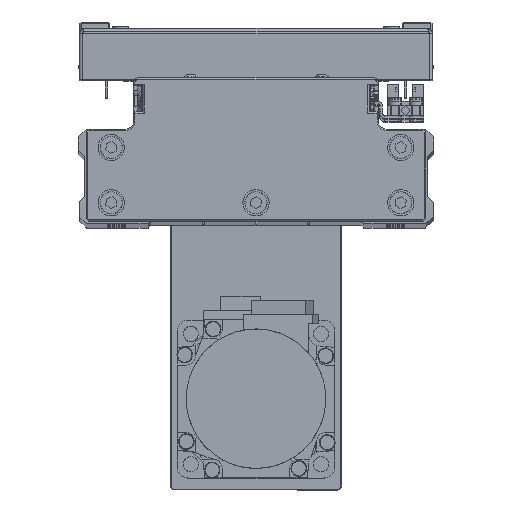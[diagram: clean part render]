
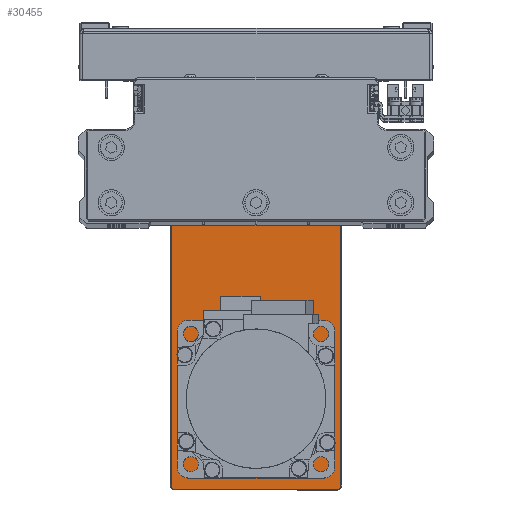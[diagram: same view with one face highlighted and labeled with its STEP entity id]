
A CAD part, top view. The second image highlights one B-rep face of the part: STEP entity #30455.
In plain terms, the highlighted planar face has unit normal (0, 0, 1) as drawn and (0, 1, 0) by its records, which use the part's own axes.
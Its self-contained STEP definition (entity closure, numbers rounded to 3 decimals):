
#355 = CIRCLE ( 'NONE', #25568, 15. ) ;
#402 = DIRECTION ( 'NONE',  ( 1., 0., 0. ) ) ;
#592 = VERTEX_POINT ( 'NONE', #35259 ) ;
#784 = DIRECTION ( 'NONE',  ( 0., 0., -1. ) ) ;
#986 = ORIENTED_EDGE ( 'NONE', *, *, #22036, .T. ) ;
#1053 = LINE ( 'NONE', #14806, #30075 ) ;
#1267 = DIRECTION ( 'NONE',  ( 0., 1., 0. ) ) ;
#1617 = VERTEX_POINT ( 'NONE', #32937 ) ;
#1671 = DIRECTION ( 'NONE',  ( 0., 0., 1. ) ) ;
#1798 = AXIS2_PLACEMENT_3D ( 'NONE', #13660, #27420, #41147 ) ;
#1874 = EDGE_CURVE ( 'NONE', #13677, #18843, #3827, .T. ) ;
#1887 = CARTESIAN_POINT ( 'NONE',  ( 83.5, 6., 32.2 ) ) ;
#2457 = CARTESIAN_POINT ( 'NONE',  ( 52.5, 6., -10.3 ) ) ;
#2594 = CARTESIAN_POINT ( 'NONE',  ( 84.7, 6., 31. ) ) ;
#3287 = FACE_BOUND ( 'NONE', #8782, .T. ) ;
#3499 = CIRCLE ( 'NONE', #28734, 1.525 ) ;
#3726 = CIRCLE ( 'NONE', #9494, 1.525 ) ;
#3827 = LINE ( 'NONE', #17580, #33459 ) ;
#4838 = DIRECTION ( 'NONE',  ( 0., 0., -1. ) ) ;
#4857 = AXIS2_PLACEMENT_3D ( 'NONE', #17927, #31668, #784 ) ;
#5238 = EDGE_CURVE ( 'NONE', #18843, #11899, #24907, .T. ) ;
#5440 = DIRECTION ( 'NONE',  ( 0., 1., 0. ) ) ;
#5470 = AXIS2_PLACEMENT_3D ( 'NONE', #32142, #1267, #15024 ) ;
#5748 = CARTESIAN_POINT ( 'NONE',  ( 52.5, 6., 0. ) ) ;
#6345 = CARTESIAN_POINT ( 'NONE',  ( 75.992, 6., -10.076 ) ) ;
#6451 = CARTESIAN_POINT ( 'NONE',  ( -84.7, 6., 31. ) ) ;
#6606 = EDGE_CURVE ( 'NONE', #592, #35906, #9870, .T. ) ;
#6901 = EDGE_CURVE ( 'NONE', #1617, #23461, #27908, .T. ) ;
#7030 = CARTESIAN_POINT ( 'NONE',  ( 61.051, 6., 23.492 ) ) ;
#7293 = VERTEX_POINT ( 'NONE', #28233 ) ;
#7894 = DIRECTION ( 'NONE',  ( 0., 1., 0. ) ) ;
#8072 = ORIENTED_EDGE ( 'NONE', *, *, #12087, .F. ) ;
#8140 = ORIENTED_EDGE ( 'NONE', *, *, #26194, .T. ) ;
#8307 = EDGE_CURVE ( 'NONE', #11649, #13677, #33800, .T. ) ;
#8394 = ORIENTED_EDGE ( 'NONE', *, *, #37243, .T. ) ;
#8482 = AXIS2_PLACEMENT_3D ( 'NONE', #18804, #32553, #1671 ) ;
#8782 = EDGE_LOOP ( 'NONE', ( #27170, #35883 ) ) ;
#8946 = CIRCLE ( 'NONE', #34114, 15. ) ;
#9316 = DIRECTION ( 'NONE',  ( 0., 1., 0. ) ) ;
#9474 = AXIS2_PLACEMENT_3D ( 'NONE', #36294, #5440, #19192 ) ;
#9483 = CARTESIAN_POINT ( 'NONE',  ( -50.5, 6., 0. ) ) ;
#9494 = AXIS2_PLACEMENT_3D ( 'NONE', #7030, #20775, #34513 ) ;
#9568 = EDGE_LOOP ( 'NONE', ( #8072, #21365 ) ) ;
#9739 = EDGE_LOOP ( 'NONE', ( #11912, #12236 ) ) ;
#9870 = CIRCLE ( 'NONE', #35059, 10.3 ) ;
#10160 = DIRECTION ( 'NONE',  ( 0., 0., -1. ) ) ;
#11649 = VERTEX_POINT ( 'NONE', #23379 ) ;
#11899 = VERTEX_POINT ( 'NONE', #39781 ) ;
#11912 = ORIENTED_EDGE ( 'NONE', *, *, #31106, .F. ) ;
#12087 = EDGE_CURVE ( 'NONE', #23461, #1617, #3726, .T. ) ;
#12236 = ORIENTED_EDGE ( 'NONE', *, *, #19580, .F. ) ;
#12341 = ORIENTED_EDGE ( 'NONE', *, *, #25073, .T. ) ;
#12548 = ORIENTED_EDGE ( 'NONE', *, *, #34148, .T. ) ;
#12665 = LINE ( 'NONE', #26429, #30135 ) ;
#13660 = CARTESIAN_POINT ( 'NONE',  ( 0., 6., 0. ) ) ;
#13677 = VERTEX_POINT ( 'NONE', #18799 ) ;
#14395 = AXIS2_PLACEMENT_3D ( 'NONE', #40179, #9316, #23064 ) ;
#14671 = CARTESIAN_POINT ( 'NONE',  ( 61.051, 6., 25.017 ) ) ;
#14806 = CARTESIAN_POINT ( 'NONE',  ( 84.7, 6., 0. ) ) ;
#15024 = DIRECTION ( 'NONE',  ( 0., 0., -1. ) ) ;
#15192 = CARTESIAN_POINT ( 'NONE',  ( -50.5, 6., 0. ) ) ;
#16295 = VERTEX_POINT ( 'NONE', #2594 ) ;
#16304 = AXIS2_PLACEMENT_3D ( 'NONE', #27299, #41011, #10160 ) ;
#16921 = VERTEX_POINT ( 'NONE', #6345 ) ;
#17053 = FACE_OUTER_BOUND ( 'NONE', #39662, .T. ) ;
#17136 = CIRCLE ( 'NONE', #42317, 10.3 ) ;
#17537 = LINE ( 'NONE', #31283, #26555 ) ;
#17580 = CARTESIAN_POINT ( 'NONE',  ( -84.7, 6., 0. ) ) ;
#17927 = CARTESIAN_POINT ( 'NONE',  ( 83.5, 6., 31. ) ) ;
#18799 = CARTESIAN_POINT ( 'NONE',  ( -84.7, 6., -31. ) ) ;
#18804 = CARTESIAN_POINT ( 'NONE',  ( 61.051, 6., 23.492 ) ) ;
#18843 = VERTEX_POINT ( 'NONE', #6451 ) ;
#19192 = DIRECTION ( 'NONE',  ( 0., 0., 1. ) ) ;
#19201 = EDGE_LOOP ( 'NONE', ( #28715, #21841 ) ) ;
#19498 = DIRECTION ( 'NONE',  ( 0., -1., 0. ) ) ;
#19580 = EDGE_CURVE ( 'NONE', #21593, #7293, #355, .T. ) ;
#20428 = FACE_BOUND ( 'NONE', #9568, .T. ) ;
#20775 = DIRECTION ( 'NONE',  ( 0., 1., 0. ) ) ;
#21365 = ORIENTED_EDGE ( 'NONE', *, *, #6901, .F. ) ;
#21460 = EDGE_CURVE ( 'NONE', #35906, #592, #17136, .T. ) ;
#21593 = VERTEX_POINT ( 'NONE', #29855 ) ;
#21637 = DIRECTION ( 'NONE',  ( 0., 0., 1. ) ) ;
#21841 = ORIENTED_EDGE ( 'NONE', *, *, #22328, .F. ) ;
#21927 = ORIENTED_EDGE ( 'NONE', *, *, #1874, .T. ) ;
#21967 = CARTESIAN_POINT ( 'NONE',  ( 52.5, 6., 0. ) ) ;
#22036 = EDGE_CURVE ( 'NONE', #42020, #11649, #12665, .T. ) ;
#22328 = EDGE_CURVE ( 'NONE', #16921, #29791, #3499, .T. ) ;
#22432 = ORIENTED_EDGE ( 'NONE', *, *, #5238, .T. ) ;
#23064 = DIRECTION ( 'NONE',  ( 0., 0., -1. ) ) ;
#23238 = DIRECTION ( 'NONE',  ( 0., 1., 0. ) ) ;
#23379 = CARTESIAN_POINT ( 'NONE',  ( -83.5, 6., -32.2 ) ) ;
#23461 = VERTEX_POINT ( 'NONE', #14671 ) ;
#24293 = CIRCLE ( 'NONE', #4857, 1.2 ) ;
#24907 = CIRCLE ( 'NONE', #5470, 1.2 ) ;
#25073 = EDGE_CURVE ( 'NONE', #16295, #37517, #1053, .T. ) ;
#25568 = AXIS2_PLACEMENT_3D ( 'NONE', #9483, #23238, #36941 ) ;
#26194 = EDGE_CURVE ( 'NONE', #37517, #42020, #35722, .T. ) ;
#26429 = CARTESIAN_POINT ( 'NONE',  ( 0., 6., -32.2 ) ) ;
#26548 = CARTESIAN_POINT ( 'NONE',  ( 84.7, 6., -31. ) ) ;
#26555 = VECTOR ( 'NONE', #402, 1000. ) ;
#27170 = ORIENTED_EDGE ( 'NONE', *, *, #6606, .T. ) ;
#27299 = CARTESIAN_POINT ( 'NONE',  ( 83.5, 6., -31. ) ) ;
#27420 = DIRECTION ( 'NONE',  ( 0., -1., 0. ) ) ;
#27908 = CIRCLE ( 'NONE', #8482, 1.525 ) ;
#28233 = CARTESIAN_POINT ( 'NONE',  ( -50.5, 6., 15. ) ) ;
#28566 = DIRECTION ( 'NONE',  ( 0., 0., -1. ) ) ;
#28715 = ORIENTED_EDGE ( 'NONE', *, *, #44184, .F. ) ;
#28734 = AXIS2_PLACEMENT_3D ( 'NONE', #38754, #7894, #21637 ) ;
#28939 = CIRCLE ( 'NONE', #9474, 1.525 ) ;
#28954 = DIRECTION ( 'NONE',  ( 0., 1., 0. ) ) ;
#29791 = VERTEX_POINT ( 'NONE', #33174 ) ;
#29855 = CARTESIAN_POINT ( 'NONE',  ( -50.5, 6., -15. ) ) ;
#30070 = CARTESIAN_POINT ( 'NONE',  ( 83.5, 6., -32.2 ) ) ;
#30075 = VECTOR ( 'NONE', #28566, 1000. ) ;
#30135 = VECTOR ( 'NONE', #40140, 1000. ) ;
#30455 = ADVANCED_FACE ( 'NONE', ( #20428, #34164, #3287, #17053, #30798 ), #44514, .F. ) ;
#30798 = FACE_BOUND ( 'NONE', #9739, .T. ) ;
#31106 = EDGE_CURVE ( 'NONE', #7293, #21593, #8946, .T. ) ;
#31283 = CARTESIAN_POINT ( 'NONE',  ( 0., 6., 32.2 ) ) ;
#31327 = DIRECTION ( 'NONE',  ( 0., 0., 1. ) ) ;
#31668 = DIRECTION ( 'NONE',  ( 0., 1., 0. ) ) ;
#32142 = CARTESIAN_POINT ( 'NONE',  ( -83.5, 6., 31. ) ) ;
#32553 = DIRECTION ( 'NONE',  ( 0., 1., 0. ) ) ;
#32624 = VERTEX_POINT ( 'NONE', #1887 ) ;
#32937 = CARTESIAN_POINT ( 'NONE',  ( 61.051, 6., 21.967 ) ) ;
#33174 = CARTESIAN_POINT ( 'NONE',  ( 75.992, 6., -7.026 ) ) ;
#33244 = DIRECTION ( 'NONE',  ( 0., 0., -1. ) ) ;
#33459 = VECTOR ( 'NONE', #31327, 1000. ) ;
#33800 = CIRCLE ( 'NONE', #14395, 1.2 ) ;
#34114 = AXIS2_PLACEMENT_3D ( 'NONE', #15192, #28954, #42661 ) ;
#34148 = EDGE_CURVE ( 'NONE', #32624, #16295, #24293, .T. ) ;
#34164 = FACE_BOUND ( 'NONE', #19201, .T. ) ;
#34513 = DIRECTION ( 'NONE',  ( 0., 0., 1. ) ) ;
#35059 = AXIS2_PLACEMENT_3D ( 'NONE', #5748, #19498, #33244 ) ;
#35259 = CARTESIAN_POINT ( 'NONE',  ( 52.5, 6., 10.3 ) ) ;
#35699 = DIRECTION ( 'NONE',  ( 0., -1., 0. ) ) ;
#35722 = CIRCLE ( 'NONE', #16304, 1.2 ) ;
#35883 = ORIENTED_EDGE ( 'NONE', *, *, #21460, .T. ) ;
#35906 = VERTEX_POINT ( 'NONE', #2457 ) ;
#36294 = CARTESIAN_POINT ( 'NONE',  ( 75.992, 6., -8.551 ) ) ;
#36941 = DIRECTION ( 'NONE',  ( 0., 0., 1. ) ) ;
#37243 = EDGE_CURVE ( 'NONE', #11899, #32624, #17537, .T. ) ;
#37517 = VERTEX_POINT ( 'NONE', #26548 ) ;
#38754 = CARTESIAN_POINT ( 'NONE',  ( 75.992, 6., -8.551 ) ) ;
#39662 = EDGE_LOOP ( 'NONE', ( #8140, #986, #42361, #21927, #22432, #8394, #12548, #12341 ) ) ;
#39781 = CARTESIAN_POINT ( 'NONE',  ( -83.5, 6., 32.2 ) ) ;
#40140 = DIRECTION ( 'NONE',  ( -1., 0., 0. ) ) ;
#40179 = CARTESIAN_POINT ( 'NONE',  ( -83.5, 6., -31. ) ) ;
#41011 = DIRECTION ( 'NONE',  ( 0., 1., 0. ) ) ;
#41147 = DIRECTION ( 'NONE',  ( 0., 0., -1. ) ) ;
#42020 = VERTEX_POINT ( 'NONE', #30070 ) ;
#42317 = AXIS2_PLACEMENT_3D ( 'NONE', #21967, #35699, #4838 ) ;
#42361 = ORIENTED_EDGE ( 'NONE', *, *, #8307, .T. ) ;
#42661 = DIRECTION ( 'NONE',  ( 0., 0., 1. ) ) ;
#44184 = EDGE_CURVE ( 'NONE', #29791, #16921, #28939, .T. ) ;
#44514 = PLANE ( 'NONE',  #1798 ) ;
